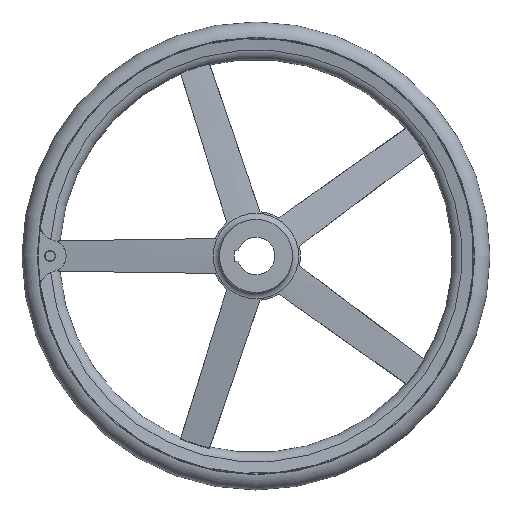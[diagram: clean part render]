
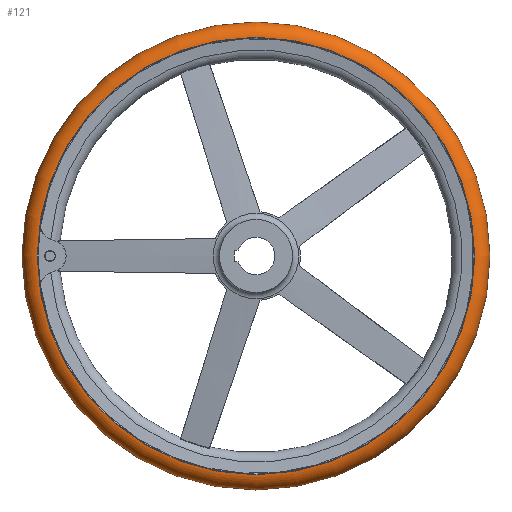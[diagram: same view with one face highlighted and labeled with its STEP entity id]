
A CAD part, left-side view. The second image highlights one B-rep face of the part: STEP entity #121.
In plain terms, the highlighted toroidal (fillet/blend) face has major radius 232.985 mm and minor radius 17.015 mm.
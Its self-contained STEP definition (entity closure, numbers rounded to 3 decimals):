
#121 = ADVANCED_FACE( '', ( #251, #252, #253 ), #254, .T. );
#251 = FACE_BOUND( '', #417, .T. );
#252 = FACE_OUTER_BOUND( '', #418, .T. );
#253 = FACE_OUTER_BOUND( '', #419, .T. );
#254 = TOROIDAL_SURFACE( '', #420, 232.985, 17.015 );
#417 = VERTEX_LOOP( '', #913 );
#418 = EDGE_LOOP( '', ( #914 ) );
#419 = EDGE_LOOP( '', ( #915 ) );
#420 = AXIS2_PLACEMENT_3D( '', #916, #917, #918 );
#913 = VERTEX_POINT( '', #1209 );
#914 = ORIENTED_EDGE( '', *, *, #1210, .T. );
#915 = ORIENTED_EDGE( '', *, *, #1174, .F. );
#916 = CARTESIAN_POINT( '', ( 55., 0., 0. ) );
#917 = DIRECTION( '', ( 1., 0., 0. ) );
#918 = DIRECTION( '', ( 0., 1., 0. ) );
#1174 = EDGE_CURVE( '', #1445, #1445, #1446, .T. );
#1209 = CARTESIAN_POINT( '', ( 55., 250., 0. ) );
#1210 = EDGE_CURVE( '', #1493, #1493, #1494, .T. );
#1445 = VERTEX_POINT( '', #2254 );
#1446 = CIRCLE( '', #2255, 233.708 );
#1493 = VERTEX_POINT( '', #2430 );
#1494 = CIRCLE( '', #2431, 233.708 );
#2254 = CARTESIAN_POINT( '', ( 72., 233.708, 0. ) );
#2255 = AXIS2_PLACEMENT_3D( '', #2651, #2652, #2653 );
#2430 = CARTESIAN_POINT( '', ( 38., 233.708, 0. ) );
#2431 = AXIS2_PLACEMENT_3D( '', #2697, #2698, #2699 );
#2651 = CARTESIAN_POINT( '', ( 72., 0., 0. ) );
#2652 = DIRECTION( '', ( 1., 0., 0. ) );
#2653 = DIRECTION( '', ( 0., 1., 0. ) );
#2697 = CARTESIAN_POINT( '', ( 38., 0., 0. ) );
#2698 = DIRECTION( '', ( 1., 0., 0. ) );
#2699 = DIRECTION( '', ( 0., 1., 0. ) );
